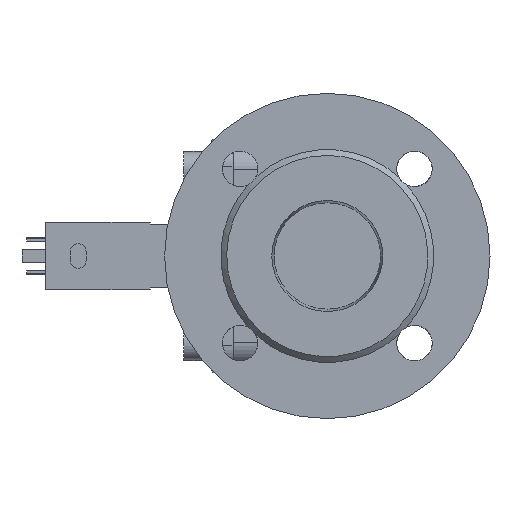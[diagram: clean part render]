
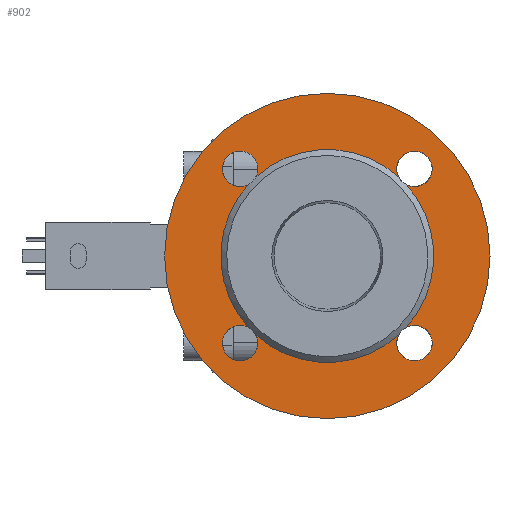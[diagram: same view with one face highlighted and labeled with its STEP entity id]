
A CAD part, left-side view. The second image highlights one B-rep face of the part: STEP entity #902.
In plain terms, the highlighted planar face has unit normal (-1, 0, 0).
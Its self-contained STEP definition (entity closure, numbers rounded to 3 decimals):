
#902 = ADVANCED_FACE( '', ( #1838, #1839 ), #1840, .T. );
#1838 = FACE_OUTER_BOUND( '', #2766, .T. );
#1839 = FACE_BOUND( '', #2767, .T. );
#1840 = PLANE( '', #2768 );
#2766 = EDGE_LOOP( '', ( #5177 ) );
#2767 = EDGE_LOOP( '', ( #5178, #5179, #5180, #5181, #5182, #5183, #5184, #5185 ) );
#2768 = AXIS2_PLACEMENT_3D( '', #5186, #5187, #5188 );
#5177 = ORIENTED_EDGE( '', *, *, #5621, .T. );
#5178 = ORIENTED_EDGE( '', *, *, #5525, .F. );
#5179 = ORIENTED_EDGE( '', *, *, #5438, .T. );
#5180 = ORIENTED_EDGE( '', *, *, #5524, .F. );
#5181 = ORIENTED_EDGE( '', *, *, #5872, .T. );
#5182 = ORIENTED_EDGE( '', *, *, #5522, .F. );
#5183 = ORIENTED_EDGE( '', *, *, #5669, .T. );
#5184 = ORIENTED_EDGE( '', *, *, #5527, .F. );
#5185 = ORIENTED_EDGE( '', *, *, #5970, .T. );
#5186 = CARTESIAN_POINT( '', ( -112., -54., 0. ) );
#5187 = DIRECTION( '', ( -1., 0., 0. ) );
#5188 = DIRECTION( '', ( 0., 0., 1. ) );
#5438 = EDGE_CURVE( '', #6500, #6501, #6502, .F. );
#5522 = EDGE_CURVE( '', #6645, #6647, #6648, .T. );
#5524 = EDGE_CURVE( '', #6649, #6501, #6651, .T. );
#5525 = EDGE_CURVE( '', #6500, #6652, #6653, .T. );
#5527 = EDGE_CURVE( '', #6654, #6644, #6656, .T. );
#5621 = EDGE_CURVE( '', #6811, #6811, #6812, .T. );
#5669 = EDGE_CURVE( '', #6645, #6644, #6891, .F. );
#5872 = EDGE_CURVE( '', #6649, #6647, #7205, .F. );
#5970 = EDGE_CURVE( '', #6654, #6652, #7338, .F. );
#6500 = VERTEX_POINT( '', #8025 );
#6501 = VERTEX_POINT( '', #8026 );
#6502 = CIRCLE( '', #8027, 9. );
#6644 = VERTEX_POINT( '', #8251 );
#6645 = VERTEX_POINT( '', #8252 );
#6647 = VERTEX_POINT( '', #8263 );
#6648 = CIRCLE( '', #8264, 54. );
#6649 = VERTEX_POINT( '', #8265 );
#6651 = CIRCLE( '', #8276, 54. );
#6652 = VERTEX_POINT( '', #8277 );
#6653 = CIRCLE( '', #8278, 54. );
#6654 = VERTEX_POINT( '', #8279 );
#6656 = CIRCLE( '', #8290, 54. );
#6811 = VERTEX_POINT( '', #8539 );
#6812 = CIRCLE( '', #8540, 82.5 );
#6891 = CIRCLE( '', #8675, 9. );
#7205 = CIRCLE( '', #9240, 9. );
#7338 = CIRCLE( '', #9465, 9. );
#8025 = CARTESIAN_POINT( '', ( -112., 40.078, 36.191 ) );
#8026 = CARTESIAN_POINT( '', ( -112., 36.191, 40.078 ) );
#8027 = AXIS2_PLACEMENT_3D( '', #10225, #10226, #10227 );
#8251 = CARTESIAN_POINT( '', ( -112., -36.191, -40.078 ) );
#8252 = CARTESIAN_POINT( '', ( -112., -40.078, -36.191 ) );
#8263 = CARTESIAN_POINT( '', ( -112., -40.078, 36.191 ) );
#8264 = AXIS2_PLACEMENT_3D( '', #10325, #10326, #10327 );
#8265 = CARTESIAN_POINT( '', ( -112., -36.191, 40.078 ) );
#8276 = AXIS2_PLACEMENT_3D( '', #10328, #10329, #10330 );
#8277 = CARTESIAN_POINT( '', ( -112., 40.078, -36.191 ) );
#8278 = AXIS2_PLACEMENT_3D( '', #10331, #10332, #10333 );
#8279 = CARTESIAN_POINT( '', ( -112., 36.191, -40.078 ) );
#8290 = AXIS2_PLACEMENT_3D( '', #10334, #10335, #10336 );
#8539 = CARTESIAN_POINT( '', ( -112., 0., 82.5 ) );
#8540 = AXIS2_PLACEMENT_3D( '', #10451, #10452, #10453 );
#8675 = AXIS2_PLACEMENT_3D( '', #10520, #10521, #10522 );
#9240 = AXIS2_PLACEMENT_3D( '', #10731, #10732, #10733 );
#9465 = AXIS2_PLACEMENT_3D( '', #10836, #10837, #10838 );
#10225 = CARTESIAN_POINT( '', ( -112., 44.194, 44.194 ) );
#10226 = DIRECTION( '', ( -1., 0., 0. ) );
#10227 = DIRECTION( '', ( 0., 0., 1. ) );
#10325 = CARTESIAN_POINT( '', ( -112., 0., 0. ) );
#10326 = DIRECTION( '', ( -1., 0., 0. ) );
#10327 = DIRECTION( '', ( 0., 0., 1. ) );
#10328 = CARTESIAN_POINT( '', ( -112., 0., 0. ) );
#10329 = DIRECTION( '', ( -1., 0., 0. ) );
#10330 = DIRECTION( '', ( 0., 0., 1. ) );
#10331 = CARTESIAN_POINT( '', ( -112., 0., 0. ) );
#10332 = DIRECTION( '', ( -1., 0., 0. ) );
#10333 = DIRECTION( '', ( 0., 0., 1. ) );
#10334 = CARTESIAN_POINT( '', ( -112., 0., 0. ) );
#10335 = DIRECTION( '', ( -1., 0., 0. ) );
#10336 = DIRECTION( '', ( 0., 0., 1. ) );
#10451 = CARTESIAN_POINT( '', ( -112., 0., 0. ) );
#10452 = DIRECTION( '', ( -1., 0., 0. ) );
#10453 = DIRECTION( '', ( 0., 0., 1. ) );
#10520 = CARTESIAN_POINT( '', ( -112., -44.194, -44.194 ) );
#10521 = DIRECTION( '', ( -1., 0., 0. ) );
#10522 = DIRECTION( '', ( 0., 0., 1. ) );
#10731 = CARTESIAN_POINT( '', ( -112., -44.194, 44.194 ) );
#10732 = DIRECTION( '', ( -1., 0., 0. ) );
#10733 = DIRECTION( '', ( 0., 0., 1. ) );
#10836 = CARTESIAN_POINT( '', ( -112., 44.194, -44.194 ) );
#10837 = DIRECTION( '', ( -1., 0., 0. ) );
#10838 = DIRECTION( '', ( 0., 0., 1. ) );
